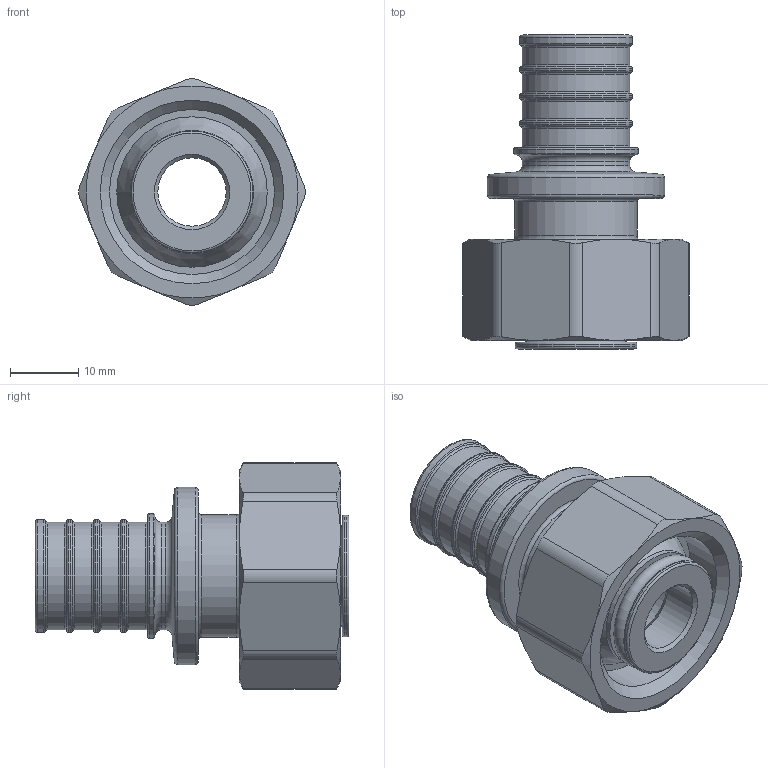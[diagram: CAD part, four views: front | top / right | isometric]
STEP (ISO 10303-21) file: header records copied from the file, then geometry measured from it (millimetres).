
FILE_DESCRIPTION(('STEP AP203'), '1');
FILE_NAME('ﾂﾐ.302612.017.000 ﾑﾁ - VTm.422.GE.002005 ﾔ頸. - 裝', '2024-01-23T13:27:24', ('Boss'), (''), 'C3D Converter', 'C3D Toolkit', '');
FILE_SCHEMA(('CONFIG_CONTROL_DESIGN'));
Length unit declared in the file: millimetre
Products named in the file (6): ВР.302612.017.000 СБ; ВР.302612.017.001; ВР.714651.009; ВР.753612.003; ВР.758421.030
Assembly tree (5 placements, depth 3):
  ВР.302612.017.000 СБ
    ВР.302612.017.001
      ВР.714651.009
      (unnamed)
    ВР.753612.003
    ВР.758421.030
Bounding box: 33.14 x 45.9 x 33.14 mm (x, y, z)
Volume: 12274.3 mm3; surface area: 9903.7 mm2
Topology: 4 solids, 4 shells, 98 faces, 232 edges, 132 vertices
Faces by surface type: torus 35, cylinder 30, plane 22, cone 11
Full cylindrical faces by diameter (mm): 10 x1, 12.5 x1, 14 x1, 15.7 x5, 16.5 x4, 17.8 x2, 17.9 x1, 18.2 x1, 21.4 x1, 24.118 x1, 24.2 x2, 25.9 x1, 26.7 x1
Entity records: 3786 total; most frequent: CARTESIAN_POINT 1716, DIRECTION 382, ORIENTED_EDGE 262, AXIS2_PLACEMENT_3D 183, EDGE_LOOP 176, EDGE_CURVE 131, FACE_OUTER_BOUND 128, VERTEX_POINT 115
